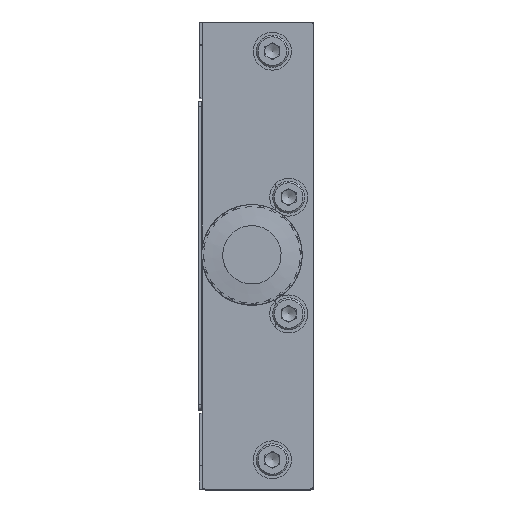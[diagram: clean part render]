
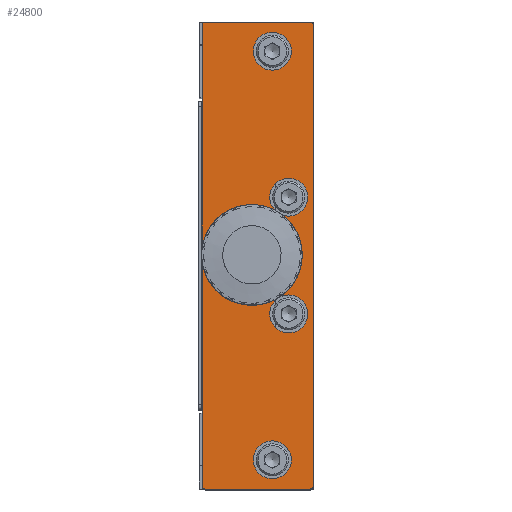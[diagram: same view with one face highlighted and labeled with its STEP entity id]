
A CAD part, top view. The second image highlights one B-rep face of the part: STEP entity #24800.
In plain terms, the highlighted planar face has unit normal (0, 0, 1).
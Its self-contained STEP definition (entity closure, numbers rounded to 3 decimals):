
#11811 = CARTESIAN_POINT ( 'NONE',  ( -322.664, -534.725, 9.5 ) ) ;
#11813 = DIRECTION ( 'NONE',  ( 0., 0., 1. ) ) ;
#11815 = DIRECTION ( 'NONE',  ( 0., -1., 0. ) ) ;
#18241 = CARTESIAN_POINT ( 'NONE',  ( -314.664, -495.225, 9.5 ) ) ;
#18244 = DIRECTION ( 'NONE',  ( 0., 0., -1. ) ) ;
#18247 = DIRECTION ( 'NONE',  ( 0., -1., 0. ) ) ;
#18475 = CARTESIAN_POINT ( 'NONE',  ( -304.164, -535.225, 9.5 ) ) ;
#18480 = DIRECTION ( 'NONE',  ( 0., 1., 0. ) ) ;
#18661 = CARTESIAN_POINT ( 'NONE',  ( -323.164, -535.225, 9.5 ) ) ;
#18666 = DIRECTION ( 'NONE',  ( 0., -1., 0. ) ) ;
#18738 = CARTESIAN_POINT ( 'NONE',  ( -304.164, -535.225, 9.5 ) ) ;
#18778 = DIRECTION ( 'NONE',  ( 1., 0., 0. ) ) ;
#19032 = CARTESIAN_POINT ( 'NONE',  ( -304.664, -534.725, 9.5 ) ) ;
#19037 = DIRECTION ( 'NONE',  ( 0., 0., 1. ) ) ;
#19042 = DIRECTION ( 'NONE',  ( 0., -1., 0. ) ) ;
#23714 = PLANE ( 'NONE',  #25130 ) ;
#23721 = DIRECTION ( 'NONE',  ( 0., 0., -1. ) ) ;
#23742 = CARTESIAN_POINT ( 'NONE',  ( -313.664, -495.225, 9.5 ) ) ;
#23745 = DIRECTION ( 'NONE',  ( 0., -1., 0. ) ) ;
#24800 = ADVANCED_FACE ( 'NONE', ( #92470, #92479, #92468, #92477, #92466, #92464 ), #23714, .F. ) ;
#25130 = AXIS2_PLACEMENT_3D ( 'NONE', #23742, #23721, #23745 ) ;
#29457 = VERTEX_POINT ( 'NONE', #104188 ) ;
#29476 = VERTEX_POINT ( 'NONE', #104191 ) ;
#29487 = VERTEX_POINT ( 'NONE', #104193 ) ;
#29493 = VERTEX_POINT ( 'NONE', #104194 ) ;
#29504 = VERTEX_POINT ( 'NONE', #104196 ) ;
#29516 = VERTEX_POINT ( 'NONE', #104198 ) ;
#29529 = VERTEX_POINT ( 'NONE', #104201 ) ;
#29557 = VERTEX_POINT ( 'NONE', #104206 ) ;
#49044 = EDGE_CURVE ( 'NONE', #29529, #29493, #89615, .T. ) ;
#49054 = EDGE_CURVE ( 'NONE', #29516, #29529, #89602, .T. ) ;
#49068 = EDGE_CURVE ( 'NONE', #29557, #29516, #89589, .T. ) ;
#49071 = EDGE_CURVE ( 'NONE', #57496, #57496, #89583, .T. ) ;
#49079 = EDGE_CURVE ( 'NONE', #57493, #57493, #89587, .T. ) ;
#49085 = EDGE_CURVE ( 'NONE', #57490, #57490, #89576, .T. ) ;
#49095 = EDGE_CURVE ( 'NONE', #57485, #57485, #89570, .T. ) ;
#57485 = VERTEX_POINT ( 'NONE', #168977 ) ;
#57490 = VERTEX_POINT ( 'NONE', #168974 ) ;
#57493 = VERTEX_POINT ( 'NONE', #168972 ) ;
#57496 = VERTEX_POINT ( 'NONE', #168970 ) ;
#58419 = VERTEX_POINT ( 'NONE', #169245 ) ;
#59445 = CIRCLE ( 'NONE', #127276, 0.5 ) ;
#59589 = VECTOR ( 'NONE', #18778, 1000. ) ;
#59602 = LINE ( 'NONE', #18738, #59589 ) ;
#59669 = LINE ( 'NONE', #18661, #59684 ) ;
#59684 = VECTOR ( 'NONE', #18666, 1000. ) ;
#59743 = VECTOR ( 'NONE', #18480, 1000. ) ;
#59780 = LINE ( 'NONE', #18475, #59743 ) ;
#59835 = CIRCLE ( 'NONE', #127252, 6. ) ;
#60020 = CIRCLE ( 'NONE', #127223, 0.5 ) ;
#78031 = CARTESIAN_POINT ( 'NONE',  ( -322.664, -455.725, 9.5 ) ) ;
#78032 = DIRECTION ( 'NONE',  ( 0., 0., 1. ) ) ;
#78033 = DIRECTION ( 'NONE',  ( 0., -1., 0. ) ) ;
#78036 = CARTESIAN_POINT ( 'NONE',  ( -304.164, -455.225, 9.5 ) ) ;
#78037 = DIRECTION ( 'NONE',  ( -1., 0., 0. ) ) ;
#78044 = CARTESIAN_POINT ( 'NONE',  ( -304.664, -455.725, 9.5 ) ) ;
#78045 = DIRECTION ( 'NONE',  ( 0., 0., 1. ) ) ;
#78046 = DIRECTION ( 'NONE',  ( 0., -1., 0. ) ) ;
#78047 = CARTESIAN_POINT ( 'NONE',  ( -311.164, -460.225, 9.5 ) ) ;
#78048 = DIRECTION ( 'NONE',  ( 0., 0., 1. ) ) ;
#78049 = DIRECTION ( 'NONE',  ( 0., 1., 0. ) ) ;
#78053 = CARTESIAN_POINT ( 'NONE',  ( -308.364, -485.225, 9.5 ) ) ;
#78054 = DIRECTION ( 'NONE',  ( 0., 0., 1. ) ) ;
#78055 = DIRECTION ( 'NONE',  ( 0., 1., 0. ) ) ;
#78059 = CARTESIAN_POINT ( 'NONE',  ( -308.364, -505.225, 9.5 ) ) ;
#78060 = DIRECTION ( 'NONE',  ( 0., 0., 1. ) ) ;
#78061 = DIRECTION ( 'NONE',  ( 0., 1., 0. ) ) ;
#78068 = CARTESIAN_POINT ( 'NONE',  ( -311.164, -530.225, 9.5 ) ) ;
#78069 = DIRECTION ( 'NONE',  ( 0., 0., 1. ) ) ;
#78070 = DIRECTION ( 'NONE',  ( 0., 1., 0. ) ) ;
#89570 = CIRCLE ( 'NONE', #98503, 3.25 ) ;
#89576 = CIRCLE ( 'NONE', #98500, 3.25 ) ;
#89583 = CIRCLE ( 'NONE', #98496, 3.25 ) ;
#89587 = CIRCLE ( 'NONE', #98498, 3.25 ) ;
#89589 = CIRCLE ( 'NONE', #98495, 0.5 ) ;
#89596 = VECTOR ( 'NONE', #78037, 1000. ) ;
#89602 = LINE ( 'NONE', #78036, #89596 ) ;
#89615 = CIRCLE ( 'NONE', #98493, 0.5 ) ;
#92464 = FACE_BOUND ( 'NONE', #116183, .T. ) ;
#92466 = FACE_BOUND ( 'NONE', #116191, .T. ) ;
#92468 = FACE_BOUND ( 'NONE', #116168, .T. ) ;
#92470 = FACE_OUTER_BOUND ( 'NONE', #97711, .T. ) ;
#92477 = FACE_BOUND ( 'NONE', #116179, .T. ) ;
#92479 = FACE_BOUND ( 'NONE', #116167, .T. ) ;
#97711 = EDGE_LOOP ( 'NONE', ( #116513, #116512, #116511, #116510, #116509, #116508, #116507, #116506 ) ) ;
#98493 = AXIS2_PLACEMENT_3D ( 'NONE', #78031, #78032, #78033 ) ;
#98495 = AXIS2_PLACEMENT_3D ( 'NONE', #78044, #78045, #78046 ) ;
#98496 = AXIS2_PLACEMENT_3D ( 'NONE', #78047, #78048, #78049 ) ;
#98498 = AXIS2_PLACEMENT_3D ( 'NONE', #78053, #78054, #78055 ) ;
#98500 = AXIS2_PLACEMENT_3D ( 'NONE', #78059, #78060, #78061 ) ;
#98503 = AXIS2_PLACEMENT_3D ( 'NONE', #78068, #78069, #78070 ) ;
#104188 = CARTESIAN_POINT ( 'NONE',  ( -304.164, -534.725, 9.5 ) ) ;
#104191 = CARTESIAN_POINT ( 'NONE',  ( -304.664, -535.225, 9.5 ) ) ;
#104193 = CARTESIAN_POINT ( 'NONE',  ( -323.164, -534.725, 9.5 ) ) ;
#104194 = CARTESIAN_POINT ( 'NONE',  ( -323.164, -455.725, 9.5 ) ) ;
#104196 = CARTESIAN_POINT ( 'NONE',  ( -322.664, -535.225, 9.5 ) ) ;
#104198 = CARTESIAN_POINT ( 'NONE',  ( -304.664, -455.225, 9.5 ) ) ;
#104201 = CARTESIAN_POINT ( 'NONE',  ( -322.664, -455.225, 9.5 ) ) ;
#104206 = CARTESIAN_POINT ( 'NONE',  ( -304.164, -455.725, 9.5 ) ) ;
#116167 = EDGE_LOOP ( 'NONE', ( #116505 ) ) ;
#116168 = EDGE_LOOP ( 'NONE', ( #116504 ) ) ;
#116179 = EDGE_LOOP ( 'NONE', ( #116503 ) ) ;
#116183 = EDGE_LOOP ( 'NONE', ( #116501 ) ) ;
#116191 = EDGE_LOOP ( 'NONE', ( #116502 ) ) ;
#116501 = ORIENTED_EDGE ( 'NONE', *, *, #192893, .T. ) ;
#116502 = ORIENTED_EDGE ( 'NONE', *, *, #49095, .F. ) ;
#116503 = ORIENTED_EDGE ( 'NONE', *, *, #49085, .F. ) ;
#116504 = ORIENTED_EDGE ( 'NONE', *, *, #49079, .F. ) ;
#116505 = ORIENTED_EDGE ( 'NONE', *, *, #49071, .F. ) ;
#116506 = ORIENTED_EDGE ( 'NONE', *, *, #192798, .T. ) ;
#116507 = ORIENTED_EDGE ( 'NONE', *, *, #192929, .T. ) ;
#116508 = ORIENTED_EDGE ( 'NONE', *, *, #49044, .T. ) ;
#116509 = ORIENTED_EDGE ( 'NONE', *, *, #49054, .T. ) ;
#116510 = ORIENTED_EDGE ( 'NONE', *, *, #49068, .T. ) ;
#116511 = ORIENTED_EDGE ( 'NONE', *, *, #192907, .T. ) ;
#116512 = ORIENTED_EDGE ( 'NONE', *, *, #192979, .T. ) ;
#116513 = ORIENTED_EDGE ( 'NONE', *, *, #192946, .T. ) ;
#127223 = AXIS2_PLACEMENT_3D ( 'NONE', #11811, #11813, #11815 ) ;
#127252 = AXIS2_PLACEMENT_3D ( 'NONE', #18241, #18244, #18247 ) ;
#127276 = AXIS2_PLACEMENT_3D ( 'NONE', #19032, #19037, #19042 ) ;
#168970 = CARTESIAN_POINT ( 'NONE',  ( -311.164, -456.975, 9.5 ) ) ;
#168972 = CARTESIAN_POINT ( 'NONE',  ( -308.364, -481.975, 9.5 ) ) ;
#168974 = CARTESIAN_POINT ( 'NONE',  ( -308.364, -501.975, 9.5 ) ) ;
#168977 = CARTESIAN_POINT ( 'NONE',  ( -311.164, -526.975, 9.5 ) ) ;
#169245 = CARTESIAN_POINT ( 'NONE',  ( -314.664, -501.225, 9.5 ) ) ;
#192798 = EDGE_CURVE ( 'NONE', #29487, #29504, #60020, .T. ) ;
#192893 = EDGE_CURVE ( 'NONE', #58419, #58419, #59835, .T. ) ;
#192907 = EDGE_CURVE ( 'NONE', #29457, #29557, #59780, .T. ) ;
#192929 = EDGE_CURVE ( 'NONE', #29493, #29487, #59669, .T. ) ;
#192946 = EDGE_CURVE ( 'NONE', #29504, #29476, #59602, .T. ) ;
#192979 = EDGE_CURVE ( 'NONE', #29476, #29457, #59445, .T. ) ;
